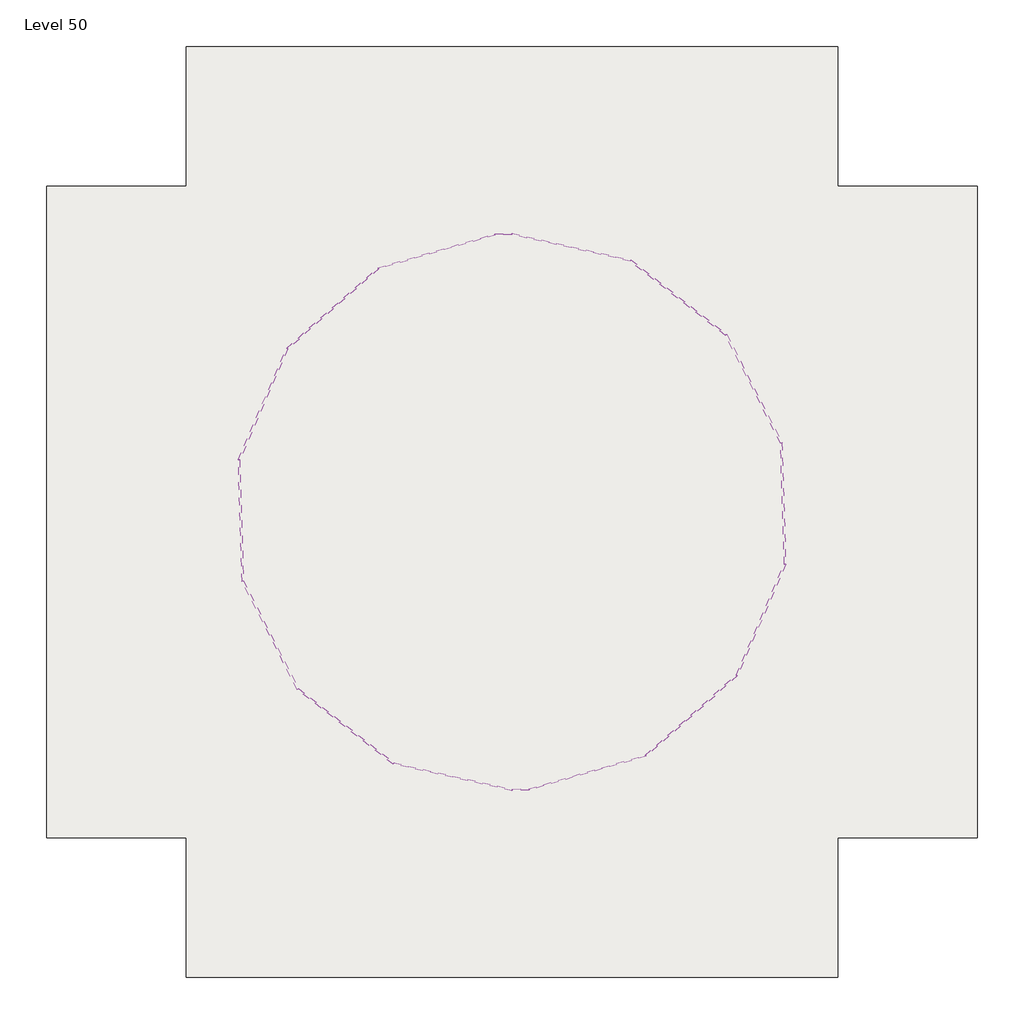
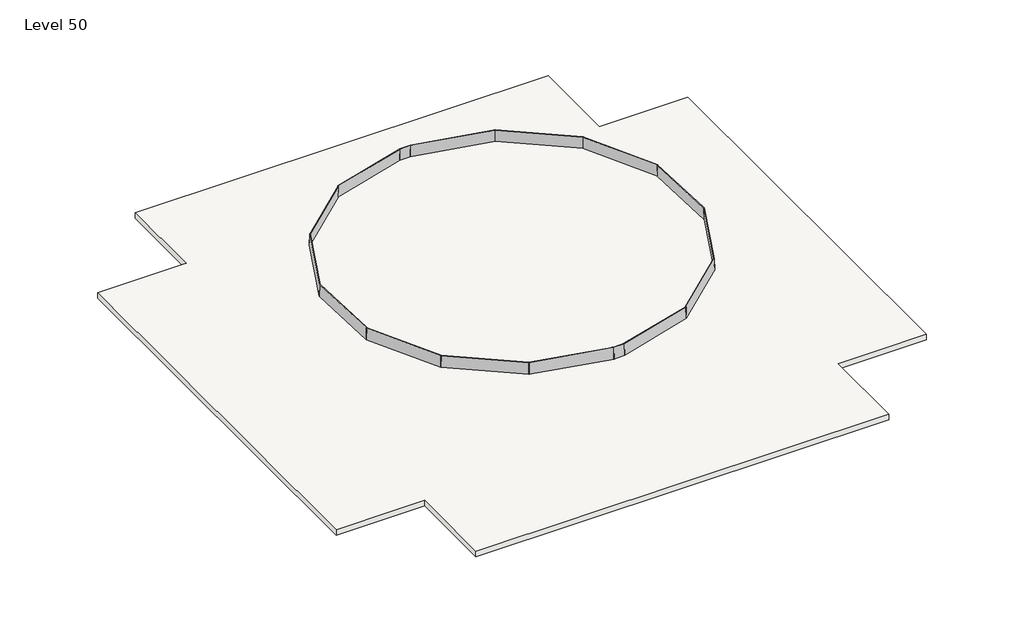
# One storey: 16 plates, 2 slabs.
"""IFC4 building model written with IfcOpenShell, lengths in millimetres."""

from ifc_helpers import new_model, si_unit, frame, origin, place, context, project, spatial, polyline, outline, extrude, transform, mapped, element, save
from components import system_panel_glazed_ddc6f969, system_panel_glazed_6d60a9ea

model = new_model("IFC4")

# Units and contexts
model_context = context("Model", 3, world=origin())
ifc_project = project(units=[si_unit("LENGTHUNIT", "METRE", prefix="MILLI")], contexts=[model_context])

# Site, building, storey
site = spatial("IfcSite", under=ifc_project)
building = spatial("IfcBuilding", under=site)
storey = spatial("IfcBuildingStorey", under=building, Name="Level 50", Elevation=149352.0)

# Plates
placement = place(None, origin())
system_panel_glazed_shape = system_panel_glazed_ddc6f969(model_context)
element("IfcPlate", 1, ObjectType="System Panel : Glazed", at=placement, inside=storey, context=model_context, shape_type="MappedRepresentation", body=[
    mapped(system_panel_glazed_shape, transform((1574.9036816, -14876.5043125, 153025.5719668), x_axis=(-0.9759000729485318, 0.21821789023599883, 0.0), y_axis=(0.2180961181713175, 0.9753554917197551, -0.03340281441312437), z_axis=(-0.007289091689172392, -0.032597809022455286, -0.9994419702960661))),
])
element("IfcPlate", 2, ObjectType="System Panel : Glazed", at=placement, inside=storey, context=model_context, shape_type="MappedRepresentation", body=[
    mapped(system_panel_glazed_shape, transform((-1940.5186119, -13221.615214, 153025.5719668), x_axis=(-0.7900143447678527, 0.6130883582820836, 0.0), y_axis=(0.612746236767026, 0.7895734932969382, -0.033402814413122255), z_axis=(-0.02047887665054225, -0.026388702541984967, -0.9994419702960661))),
])
element("IfcPlate", 3, ObjectType="System Panel : Glazed", at=placement, inside=storey, context=model_context, shape_type="MappedRepresentation", body=[
    mapped(system_panel_glazed_shape, transform((-4416.2922071, -10227.0539881, 153025.5719668), x_axis=(-0.45364969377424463, 0.8911800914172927, 0.0), y_axis=(0.8906827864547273, 0.4533965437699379, -0.03340281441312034), z_axis=(-0.02976792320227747, -0.015153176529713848, -0.9994419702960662))),
])
element("IfcPlate", 4, ObjectType="System Panel : Glazed", at=placement, inside=storey, context=model_context, shape_type="MappedRepresentation", body=[
    mapped(system_panel_glazed_shape, transform((-5380.8411811, -6463.2132493, 153025.5719668), x_axis=(-0.03087557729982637, 0.9995232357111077, 0.0), y_axis=(0.9989654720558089, 0.03085834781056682, -0.03340281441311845), z_axis=(-0.033386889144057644, -0.0010313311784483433, -0.9994419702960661))),
])
element("IfcPlate", 5, ObjectType="System Panel : Glazed", at=placement, inside=storey, context=model_context, shape_type="MappedRepresentation", body=[
    mapped(system_panel_glazed_shape, transform((-4650.4419197, -2647.015043, 153025.5719668), x_axis=(0.3977796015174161, 0.9174810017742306, 0.0), y_axis=(0.9169690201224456, -0.39755762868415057, -0.033402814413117), z_axis=(-0.030646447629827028, 0.013286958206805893, -0.9994419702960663))),
])
element("IfcPlate", 6, ObjectType="System Panel : Glazed", at=placement, inside=storey, context=model_context, shape_type="MappedRepresentation", body=[
    mapped(system_panel_glazed_shape, transform((-2364.2180919, 494.6457342, 153025.5719668), x_axis=(0.7506672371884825, 0.6606804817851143, 0.0), y_axis=(0.660311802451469, -0.7502483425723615, -0.03340281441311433), z_axis=(-0.022068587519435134, 0.025074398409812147, -0.9994419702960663))),
])
element("IfcPlate", 7, ObjectType="System Panel : Glazed", at=placement, inside=storey, context=model_context, shape_type="MappedRepresentation", body=[
    mapped(system_panel_glazed_shape, transform((1042.3590972, 2363.3575058, 153025.5719668), x_axis=(0.9605706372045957, 0.27803606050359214, 0.0), y_axis=(0.27788090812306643, -0.960034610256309, -0.033402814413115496), z_axis=(-0.00928718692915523, 0.0320857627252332, -0.9994419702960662))),
])
element("IfcPlate", 8, ObjectType="System Panel : Glazed", at=placement, inside=storey, context=model_context, shape_type="MappedRepresentation", body=[
    mapped(system_panel_glazed_shape, transform((5460.3704271, 2499.8312219, 153025.5719668), x_axis=(0.9759000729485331, -0.21821789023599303, 0.0), y_axis=(-0.2180961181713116, -0.9753554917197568, -0.033402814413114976), z_axis=(0.007289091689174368, 0.03259780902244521, -0.9994419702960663))),
])
element("IfcPlate", 9, ObjectType="System Panel : Glazed", at=placement, inside=storey, context=model_context, shape_type="MappedRepresentation", body=[
    mapped(system_panel_glazed_shape, transform((8975.7927206, 844.9421234, 153025.5719668), x_axis=(0.7900143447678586, -0.6130883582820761, 0.0), y_axis=(-0.6127462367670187, -0.7895734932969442, -0.033402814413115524), z_axis=(0.020478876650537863, 0.026388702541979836, -0.9994419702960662))),
])
element("IfcPlate", 10, ObjectType="System Panel : Glazed", at=placement, inside=storey, context=model_context, shape_type="MappedRepresentation", body=[
    mapped(system_panel_glazed_shape, transform((11451.5663158, -2149.6191025, 153025.5719668), x_axis=(0.45364969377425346, -0.8911800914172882, 0.0), y_axis=(-0.8906827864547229, -0.45339654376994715, -0.033402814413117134), z_axis=(0.029767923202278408, 0.01515317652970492, -0.9994419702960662))),
])
element("IfcPlate", 11, ObjectType="System Panel : Glazed", at=placement, inside=storey, context=model_context, shape_type="MappedRepresentation", body=[
    mapped(system_panel_glazed_shape, transform((12416.1152898, -5913.4598413, 153025.5719668), x_axis=(0.030875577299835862, -0.9995232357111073, 0.0), y_axis=(-0.9989654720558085, -0.030858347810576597, -0.03340281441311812), z_axis=(0.03338688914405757, 0.001031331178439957, -0.9994419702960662))),
])
element("IfcPlate", 12, ObjectType="System Panel : Glazed", at=placement, inside=storey, context=model_context, shape_type="MappedRepresentation", body=[
    mapped(system_panel_glazed_shape, transform((11685.7160284, -9729.6580475, 153025.5719668), x_axis=(-0.39777960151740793, -0.9174810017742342, 0.0), y_axis=(-0.9169690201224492, 0.3975576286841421, -0.03340281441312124), z_axis=(0.030646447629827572, -0.013286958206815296, -0.9994419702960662))),
])
element("IfcPlate", 13, ObjectType="System Panel : Glazed", at=placement, inside=storey, context=model_context, shape_type="MappedRepresentation", body=[
    mapped(system_panel_glazed_shape, transform((9399.4922006, -12871.3188247, 153025.5719668), x_axis=(-0.7506672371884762, -0.6606804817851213, 0.0), y_axis=(-0.6603118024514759, 0.7502483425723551, -0.0334028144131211), z_axis=(0.02206858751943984, -0.025074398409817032, -0.9994419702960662))),
])
element("IfcPlate", 14, ObjectType="System Panel : Glazed", at=placement, inside=storey, context=model_context, shape_type="MappedRepresentation", body=[
    mapped(system_panel_glazed_shape, transform((5992.9150116, -14740.0305964, 153025.5719668), x_axis=(-0.9605706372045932, -0.27803606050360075, 0.0), y_axis=(-0.2778809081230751, 0.9600346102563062, -0.033402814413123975), z_axis=(0.009287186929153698, -0.032085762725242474, -0.999441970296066))),
])
system_panel_glazed_2_shape = system_panel_glazed_6d60a9ea(model_context)
element("IfcPlate", 15, ObjectType="System Panel : Glazed", at=placement, inside=storey, context=model_context, shape_type="MappedRepresentation", body=[
    mapped(system_panel_glazed_2_shape, transform((3236.1065368, 2925.5430468, 153025.5719668), x_axis=(0.9995232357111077, 0.030875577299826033, 0.0), y_axis=(0.03085750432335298, -0.9989381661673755, -0.034210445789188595), z_axis=(-0.0010562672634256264, 0.03419413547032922, -0.9994146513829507))),
])
element("IfcPlate", 16, ObjectType="System Panel : Glazed", at=placement, inside=storey, context=model_context, shape_type="MappedRepresentation", body=[
    mapped(system_panel_glazed_2_shape, transform((3799.1675719, -15302.2161374, 153025.5719668), x_axis=(-0.9995232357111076, -0.030875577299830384, 0.0), y_axis=(-0.030857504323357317, 0.9989381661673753, -0.0342104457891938), z_axis=(0.001056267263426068, -0.03419413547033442, -0.9994146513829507))),
])

# Slabs
element("IfcSlab", 17, ObjectType="Generic - 12\"", at=placement, inside=storey, context=model_context, shape_type="SweptSolid", body=[
    extrude(outline(polyline([(-7150.3629456, 4479.6634547), (-7150.3629456, 9051.6634547), (14185.6370544, 9051.6634547), (14185.6370544, 4479.6634547), (18757.6370544, 4479.6634547), (18757.6370544, -16856.3365453), (14185.6370544, -16856.3365453), (14185.6370544, -21428.3365453), (-7150.3629456, -21428.3365453), (-7150.3629456, -16856.3365453), (-11722.3629456, -16856.3365453), (-11722.3629456, 4479.6634547), (-7150.3629456, 4479.6634547)])), frame((0.0, 0.0, 149047.2), z_axis=(0.0, 0.0, 1.0), x_axis=(1.0, 0.0, 0.0)), (0.0, 0.0, 1.0), 304.8),
])
element("IfcSlab", 18, ObjectType="Generic - 12\"", at=placement, inside=storey, context=model_context, shape_type="SweptSolid", body=[
    extrude(outline(polyline([(-7150.3629456, 4479.6634547), (-7150.3629456, 9051.6634547), (14185.6370544, 9051.6634547), (14185.6370544, 4479.6634547), (18757.6370544, 4479.6634547), (18757.6370544, -16856.3365453), (14185.6370544, -16856.3365453), (14185.6370544, -21428.3365453), (-7150.3629456, -21428.3365453), (-7150.3629456, -16856.3365453), (-11722.3629456, -16856.3365453), (-11722.3629456, 4479.6634547), (-7150.3629456, 4479.6634547)])), frame((0.0, 0.0, 149047.2), z_axis=(0.0, 0.0, 1.0), x_axis=(1.0, 0.0, 0.0)), (0.0, 0.0, 1.0), 304.8),
])

save(model, "model.ifc")
